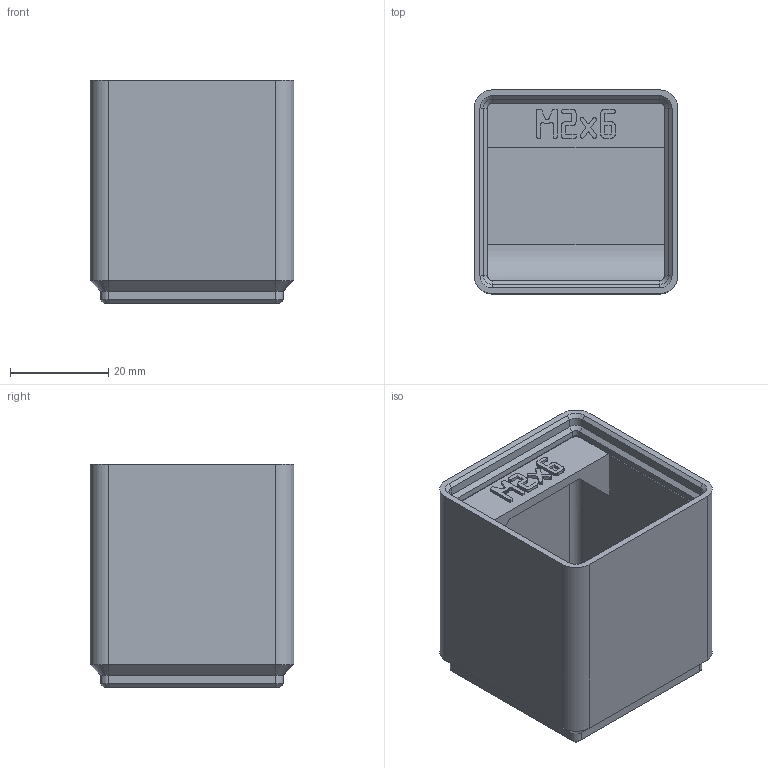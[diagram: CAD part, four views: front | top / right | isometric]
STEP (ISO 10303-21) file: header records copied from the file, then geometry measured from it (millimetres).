
FILE_DESCRIPTION(('Open CASCADE Model'),'2;1');
FILE_NAME('Open CASCADE Shape Model','2026-11-03T10:35:45',('Author'),( 'Open CASCADE'),'Open CASCADE STEP processor 8.0','build123d', 'Unknown');
FILE_SCHEMA(('AUTOMOTIVE_DESIGN { 1 0 10303 214 1 1 1 1 }'));
Length unit declared in the file: millimetre
Products named in the file (1): COMPOUND
Bounding box: 41.5 x 41.5 x 45.55 mm (x, y, z)
Volume: 24940 mm3; surface area: 16498.5 mm2
Topology: 1 solids, 1 shells, 546 faces, 1554 edges, 1016 vertices
Faces by surface type: plane 505, cylinder 21, cone 20
Entity records: 36731 total; most frequent: CARTESIAN_POINT 7671, DIRECTION 4671, LINE 3462, VECTOR 3462, ORIENTED_EDGE 3108, PCURVE 3108, DEFINITIONAL_REPRESENTATION 3108, EDGE_CURVE 1554
